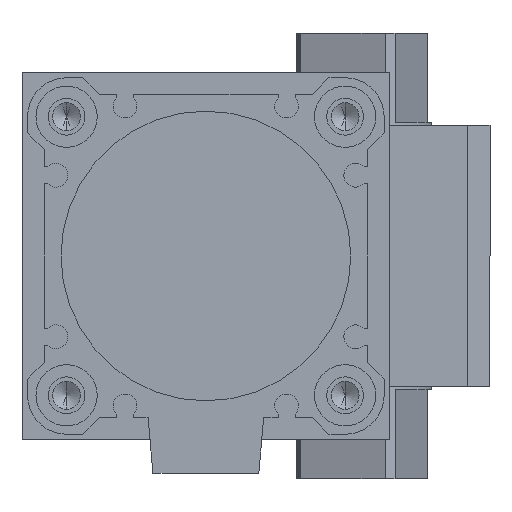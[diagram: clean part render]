
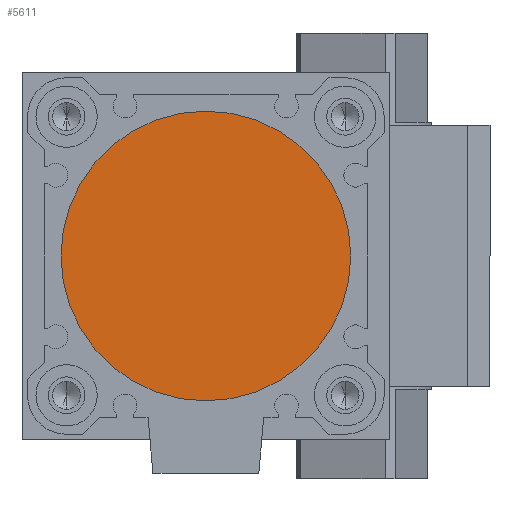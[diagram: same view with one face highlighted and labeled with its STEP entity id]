
A CAD part, front view. The second image highlights one B-rep face of the part: STEP entity #5611.
In plain terms, the highlighted planar face has unit normal (0, -1, 0) as drawn and (1, 0, 0) by its records, which use the part's own axes.
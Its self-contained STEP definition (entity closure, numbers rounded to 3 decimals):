
#22 = AXIS2_PLACEMENT_3D ( 'NONE', #2023, #2024, #2025 ) ;
#366 = AXIS2_PLACEMENT_3D ( 'NONE', #2190, #2199, #2200 ) ;
#592 = CIRCLE ( 'NONE', #22, 26. ) ;
#1176 = EDGE_LOOP ( 'NONE', ( #4985, #4986 ) ) ;
#1633 = CARTESIAN_POINT ( 'NONE',  ( 63.5, 0., 0. ) ) ;
#1634 = DIRECTION ( 'NONE',  ( 1., 0., 0. ) ) ;
#1635 = DIRECTION ( 'NONE',  ( 0., 0., -1. ) ) ;
#2023 = CARTESIAN_POINT ( 'NONE',  ( 63.5, 0., 0. ) ) ;
#2024 = DIRECTION ( 'NONE',  ( 1., 0., 0. ) ) ;
#2025 = DIRECTION ( 'NONE',  ( 0., 0., -1. ) ) ;
#2190 = CARTESIAN_POINT ( 'NONE',  ( 63.5, 0., 0. ) ) ;
#2197 = PLANE ( 'NONE',  #366 ) ;
#2199 = DIRECTION ( 'NONE',  ( 1., 0., 0. ) ) ;
#2200 = DIRECTION ( 'NONE',  ( 0., 0., -1. ) ) ;
#2357 = FACE_OUTER_BOUND ( 'NONE', #1176, .T. ) ;
#3635 = AXIS2_PLACEMENT_3D ( 'NONE', #1633, #1634, #1635 ) ;
#3995 = CARTESIAN_POINT ( 'NONE',  ( 63.5, 0., 26. ) ) ;
#4012 = CARTESIAN_POINT ( 'NONE',  ( 63.5, 0., -26. ) ) ;
#4540 = VERTEX_POINT ( 'NONE', #3995 ) ;
#4559 = VERTEX_POINT ( 'NONE', #4012 ) ;
#4985 = ORIENTED_EDGE ( 'NONE', *, *, #5830, .T. ) ;
#4986 = ORIENTED_EDGE ( 'NONE', *, *, #6630, .T. ) ;
#5611 = ADVANCED_FACE ( 'NONE', ( #2357 ), #2197, .T. ) ;
#5830 = EDGE_CURVE ( 'NONE', #4559, #4540, #6567, .T. ) ;
#6567 = CIRCLE ( 'NONE', #3635, 26. ) ;
#6630 = EDGE_CURVE ( 'NONE', #4540, #4559, #592, .T. ) ;
